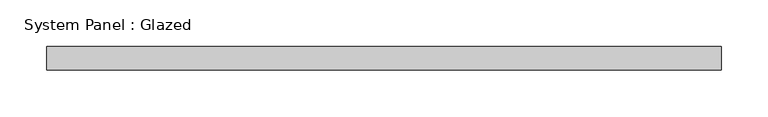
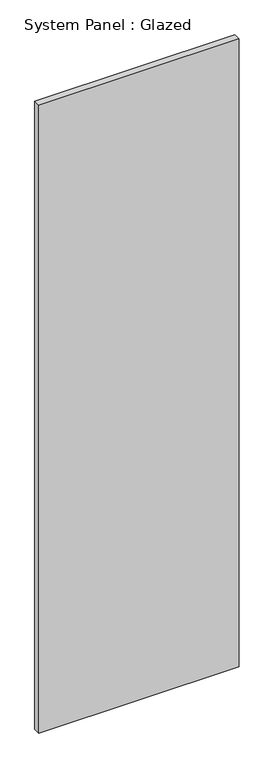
"""IFC4 building model written with IfcOpenShell, lengths in millimetres: plate geometry, System Panel : Glazed."""

import ifcopenshell
import ifcopenshell.guid

model = None  # the IFC model being written
_history = None  # IfcOwnerHistory: only IFC2X3 demands one
_inside = {}  # id of a spatial element -> (the spatial element, [elements in it])
_under = {}  # id of a project, library or spatial element -> (it, [spatial elements below it])
_declared = {}  # id of a project -> (the project, [libraries it declares])
_typed = {}  # id of a type object -> (the type object, [elements of that type])
_made_of = {}  # id of a material, layer set ... -> (it, [elements and type objects made of it])


def new_model(schema):
    """Start an empty IFC model of exactly this schema.

    Asked for "IFC4X3", IfcOpenShell would pick the latest addendum, in which some entities
    have other attributes; the version numbers below select the first issue.
    IFC2X3 requires an IfcOwnerHistory on every rooted entity: one is made here for all.
    """
    global model, _history
    if schema == "IFC4X3":
        model = ifcopenshell.file(schema_version=(4, 3, 0, 0))
    else:
        model = ifcopenshell.file(schema=schema)
    _inside.clear()
    _under.clear()
    _declared.clear()
    _typed.clear()
    _made_of.clear()
    _history = None
    if model.schema == "IFC2X3":
        org = make("IfcOrganization", Name="unknown")
        user = make(
            "IfcPersonAndOrganization",
            ThePerson=make("IfcPerson", FamilyName="unknown"),
            TheOrganization=org,
        )
        app = make(
            "IfcApplication",
            ApplicationDeveloper=org,
            Version="unknown",
            ApplicationFullName="unknown",
            ApplicationIdentifier="unknown",
        )
        _history = make(
            "IfcOwnerHistory",
            OwningUser=user,
            OwningApplication=app,
            ChangeAction="ADDED",
            CreationDate=0,
        )
    return model


def make(cls, **values):
    """One entity of the class cls with the attributes given. An attribute that is None is left unset."""
    return model.create_entity(
        cls, **{name: value for name, value in values.items() if value is not None}
    )


def rooted(cls, **values):
    """An entity with a GlobalId (a new one), such as an element, a storey or a relation."""
    return make(cls, GlobalId=ifcopenshell.guid.new(), OwnerHistory=_history, **values)


def si_unit(unit_type, name, prefix=None):
    """IfcSIUnit, for example si_unit("LENGTHUNIT", "METRE", prefix="MILLI")."""
    return make("IfcSIUnit", UnitType=unit_type, Prefix=prefix, Name=name)


def assignment(units):
    """IfcUnitAssignment: the units of a project."""
    return None if units is None else make("IfcUnitAssignment", Units=units)


def point(xyz):
    """IfcCartesianPoint."""
    return None if xyz is None else make("IfcCartesianPoint", Coordinates=xyz)


def direction(xyz):
    """IfcDirection."""
    return None if xyz is None else make("IfcDirection", DirectionRatios=xyz)


def frame(location, z_axis=None, x_axis=None):
    """IfcAxis2Placement3D, a coordinate frame: its origin and axes. An axis left out is left unset."""
    return make(
        "IfcAxis2Placement3D",
        Location=point(location),
        Axis=direction(z_axis),
        RefDirection=direction(x_axis),
    )


def origin():
    """The frame at (0, 0, 0) with its axes left unset."""
    return frame((0.0, 0.0, 0.0))


def origin_with_axes():
    """The frame at (0, 0, 0) with the z axis (0, 0, 1) and the x axis (1, 0, 0) written out."""
    return frame((0.0, 0.0, 0.0), z_axis=(0.0, 0.0, 1.0), x_axis=(1.0, 0.0, 0.0))


def place(relative_to, where):
    """IfcLocalPlacement: puts the frame where relative to a parent placement (None: the world)."""
    return make(
        "IfcLocalPlacement", PlacementRelTo=relative_to, RelativePlacement=where
    )


def context(
    kind, dimensions, precision=None, world=None, true_north=None, identifier=None
):
    """IfcGeometricRepresentationContext, for example the 3D "Model" context."""
    return make(
        "IfcGeometricRepresentationContext",
        ContextIdentifier=identifier,
        ContextType=kind,
        CoordinateSpaceDimension=dimensions,
        Precision=precision,
        WorldCoordinateSystem=world,
        TrueNorth=true_north,
    )


def project(units=None, contexts=None):
    """IfcProject with its units and contexts."""
    return rooted(
        "IfcProject",
        Name="project",
        RepresentationContexts=contexts,
        UnitsInContext=assignment(units),
    )


def spatial(cls, under=None, at=None, **own):
    """A site, building, storey or space (cls), placed at a placement, below another one or the project."""
    s = rooted(cls, ObjectPlacement=at, **own)
    if under is not None:
        _under.setdefault(under.id(), (under, []))[1].append(s)
    return s


def polyline(points):
    """IfcPolyline through the points."""
    return make("IfcPolyline", Points=[point(p) for p in points])


def outline(outer, holes=None, kind="AREA"):
    """IfcArbitraryClosedProfileDef: a profile drawn as a closed curve; with holes, ...WithVoids."""
    if holes is None:
        return make("IfcArbitraryClosedProfileDef", ProfileType=kind, OuterCurve=outer)
    return make(
        "IfcArbitraryProfileDefWithVoids",
        ProfileType=kind,
        OuterCurve=outer,
        InnerCurves=holes,
    )


def extrude(swept, where, along, depth):
    """IfcExtrudedAreaSolid: the profile swept, set in the frame where, extruded along a direction by depth."""
    return make(
        "IfcExtrudedAreaSolid",
        SweptArea=swept,
        Position=where,
        ExtrudedDirection=direction(along),
        Depth=depth,
    )


def shape(context_of_items, identifier, shape_type, items):
    """IfcShapeRepresentation: the items that make up one representation, for example the "Body"."""
    return make(
        "IfcShapeRepresentation",
        ContextOfItems=context_of_items,
        RepresentationIdentifier=identifier,
        RepresentationType=shape_type,
        Items=items,
    )


def source(mapping_origin, context_of_items, identifier, shape_type, items):
    """IfcRepresentationMap: a shape defined once, which mapped items show again and again."""
    return make(
        "IfcRepresentationMap",
        MappingOrigin=mapping_origin,
        MappedRepresentation=shape(context_of_items, identifier, shape_type, items),
    )


def transform(
    local_origin,
    x_axis=None,
    y_axis=None,
    z_axis=None,
    scale=None,
    scale2=None,
    scale3=None,
    uniform=True,
):
    """IfcCartesianTransformationOperator3D, or its non-uniform kind. x_axis, y_axis, z_axis: its Axis1, 2, 3."""
    if uniform:
        return make(
            "IfcCartesianTransformationOperator3D",
            Axis1=direction(x_axis),
            Axis2=direction(y_axis),
            LocalOrigin=point(local_origin),
            Scale=scale,
            Axis3=direction(z_axis),
        )
    return make(
        "IfcCartesianTransformationOperator3DnonUniform",
        Axis1=direction(x_axis),
        Axis2=direction(y_axis),
        LocalOrigin=point(local_origin),
        Scale=scale,
        Axis3=direction(z_axis),
        Scale2=scale2,
        Scale3=scale3,
    )


def mapped(mapping_source, mapping_target):
    """IfcMappedItem: shows the shape of a source again, moved by a transform."""
    return make(
        "IfcMappedItem", MappingSource=mapping_source, MappingTarget=mapping_target
    )


def made_of(thing, what):
    """Note that an element or type object is made of a material, layer set ...; save() writes the relation."""
    if what is not None:
        _made_of.setdefault(what.id(), (what, []))[1].append(thing)
    return thing


def element(
    cls,
    number,
    at=None,
    inside=None,
    cuts=None,
    type_object=None,
    material=None,
    context=None,
    identifier="Body",
    shape_type=None,
    held_by="IfcProductDefinitionShape",
    body=None,
    shapes=None,
    **own,
):
    """One element of the class cls, such as IfcWall. Its Tag is "e" and its number.

    at: its placement. inside: the storey or other place that contains it. cuts: it is an
    opening in that element (IfcRelVoidsElement). A single representation is given by context,
    identifier, shape_type and body (its items); several are given by shapes. held_by: the class
    of the entity that holds the representations. save() writes the other relations.
    """
    e = rooted(cls, Tag="e%d" % number, ObjectPlacement=at, **own)
    if body is not None:
        shapes = [shape(context, identifier, shape_type, body)]
    if shapes is not None:
        e.Representation = make(held_by, Representations=shapes)
    if inside is not None:
        _inside.setdefault(inside.id(), (inside, []))[1].append(e)
    if cuts is not None:
        rooted(
            "IfcRelVoidsElement", RelatingBuildingElement=cuts, RelatedOpeningElement=e
        )
    if type_object is not None:
        _typed.setdefault(type_object.id(), (type_object, []))[1].append(e)
    return made_of(e, material)


def aggregate(whole, parts):
    """IfcRelAggregates: a whole, such as a stair, and the parts it consists of."""
    return rooted("IfcRelAggregates", RelatingObject=whole, RelatedObjects=parts)


def save(model, path):
    """Write the relations noted so far, then the file.

    IfcRelAggregates (storeys below a building ...), IfcRelContainedInSpatialStructure (elements
    in a storey), IfcRelDefinesByType, IfcRelAssociatesMaterial and IfcRelDeclares: one each for
    every whole, place, type object, material and project.
    """
    for whole, parts in _under.values():
        aggregate(whole, parts)
    for where, things in _inside.values():
        rooted(
            "IfcRelContainedInSpatialStructure",
            RelatedElements=things,
            RelatingStructure=where,
        )
    for kind, things in _typed.values():
        rooted("IfcRelDefinesByType", RelatedObjects=things, RelatingType=kind)
    for what, things in _made_of.values():
        rooted("IfcRelAssociatesMaterial", RelatedObjects=things, RelatingMaterial=what)
    for by, libraries in _declared.values():
        rooted("IfcRelDeclares", RelatingContext=by, RelatedDefinitions=libraries)
    model.write(path)


def system_panel_glazed_687a9a7b(model_context):
    return source(origin(), model_context, "Body", "SweptSolid", [
        extrude(outline(polyline([(361.9500001, 19.05), (-361.9500001, 19.05), (-361.9500001, 44.45), (361.9500001, 44.45), (361.9500001, 19.05)])), origin_with_axes(), (0.0, 0.0, 1.0), 2400.3),
    ])


if __name__ == "__main__":
    model = new_model("IFC4")
    model_context = context("Model", 3, world=origin())
    ifc_project = project(units=[si_unit("LENGTHUNIT", "METRE", prefix="MILLI")], contexts=[model_context])
    site = spatial("IfcSite", under=ifc_project)
    building = spatial("IfcBuilding", under=site)
    placement = place(None, origin())
    system_panel_glazed_shape = system_panel_glazed_687a9a7b(model_context)
    element("IfcPlate", 1, ObjectType="System Panel : Glazed", at=placement, inside=building, context=model_context, shape_type="MappedRepresentation", body=[
        mapped(system_panel_glazed_shape, transform((0.0, 0.0, 0.0), x_axis=(1.0, 0.0, 0.0), y_axis=(0.0, 1.0, 0.0), z_axis=(0.0, 0.0, 1.0))),
    ])
    save(model, "model.ifc")
